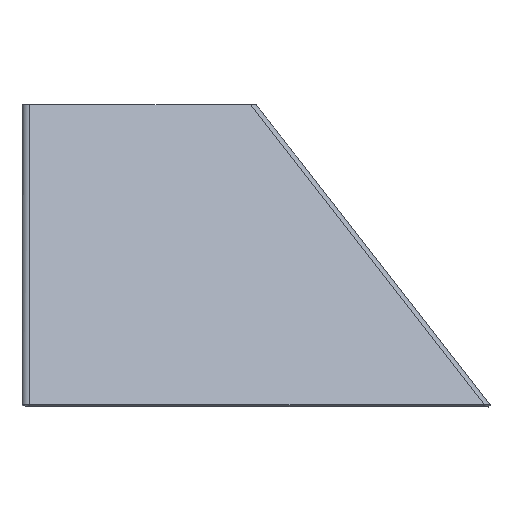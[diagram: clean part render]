
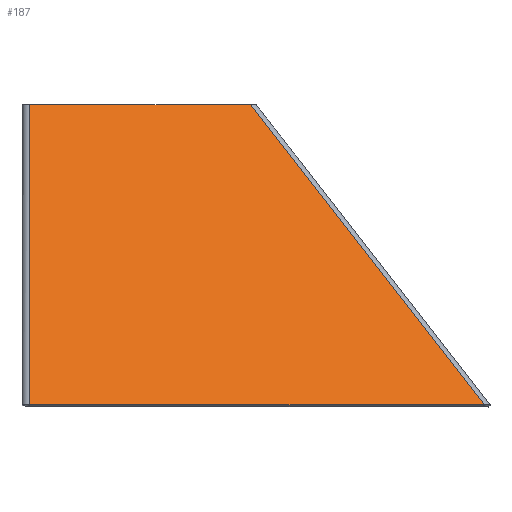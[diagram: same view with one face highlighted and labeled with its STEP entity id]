
A CAD part, top view. The second image highlights one B-rep face of the part: STEP entity #187.
In plain terms, the highlighted planar face has unit normal (0, 0.664, 0.747).
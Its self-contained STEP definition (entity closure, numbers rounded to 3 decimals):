
#16 = FACE_OUTER_BOUND ( 'NONE', #794, .T. ) ;
#30 = CARTESIAN_POINT ( 'NONE',  ( 206.755, 89.832, -79.85 ) ) ;
#39 = CARTESIAN_POINT ( 'NONE',  ( 276.624, 0., 0. ) ) ;
#44 = LINE ( 'NONE', #414, #197 ) ;
#66 = VERTEX_POINT ( 'NONE', #725 ) ;
#150 = PLANE ( 'NONE',  #367 ) ;
#152 = VECTOR ( 'NONE', #295, 1000. ) ;
#153 = EDGE_CURVE ( 'NONE', #485, #66, #44, .T. ) ;
#181 = LINE ( 'NONE', #799, #700 ) ;
#187 = ADVANCED_FACE ( 'NONE', ( #16 ), #150, .F. ) ;
#189 = EDGE_CURVE ( 'NONE', #805, #359, #181, .T. ) ;
#197 = VECTOR ( 'NONE', #346, 1000. ) ;
#205 = EDGE_CURVE ( 'NONE', #485, #805, #503, .T. ) ;
#206 = VECTOR ( 'NONE', #489, 1000. ) ;
#223 = DIRECTION ( 'NONE',  ( 0., -0.664, -0.747 ) ) ;
#227 = CARTESIAN_POINT ( 'NONE',  ( 4.5, 0., 0. ) ) ;
#295 = DIRECTION ( 'NONE',  ( 0., -0.747, 0.664 ) ) ;
#346 = DIRECTION ( 'NONE',  ( 1., 0., 0. ) ) ;
#359 = VERTEX_POINT ( 'NONE', #39 ) ;
#367 = AXIS2_PLACEMENT_3D ( 'NONE', #616, #223, #680 ) ;
#386 = EDGE_CURVE ( 'NONE', #359, #66, #710, .T. ) ;
#408 = ORIENTED_EDGE ( 'NONE', *, *, #205, .T. ) ;
#414 = CARTESIAN_POINT ( 'NONE',  ( 0., 180., -160. ) ) ;
#423 = DIRECTION ( 'NONE',  ( 1., 0., 0. ) ) ;
#485 = VERTEX_POINT ( 'NONE', #838 ) ;
#489 = DIRECTION ( 'NONE',  ( -0.503, 0.646, -0.574 ) ) ;
#503 = LINE ( 'NONE', #227, #152 ) ;
#571 = CARTESIAN_POINT ( 'NONE',  ( 4.5, 0., 0. ) ) ;
#593 = ORIENTED_EDGE ( 'NONE', *, *, #189, .T. ) ;
#616 = CARTESIAN_POINT ( 'NONE',  ( 0., 0., 0. ) ) ;
#680 = DIRECTION ( 'NONE',  ( 0., 0.747, -0.664 ) ) ;
#700 = VECTOR ( 'NONE', #423, 1000. ) ;
#710 = LINE ( 'NONE', #30, #206 ) ;
#724 = ORIENTED_EDGE ( 'NONE', *, *, #153, .F. ) ;
#725 = CARTESIAN_POINT ( 'NONE',  ( 136.624, 180., -160. ) ) ;
#746 = ORIENTED_EDGE ( 'NONE', *, *, #386, .T. ) ;
#794 = EDGE_LOOP ( 'NONE', ( #593, #746, #724, #408 ) ) ;
#799 = CARTESIAN_POINT ( 'NONE',  ( 0., 0., 0. ) ) ;
#805 = VERTEX_POINT ( 'NONE', #571 ) ;
#838 = CARTESIAN_POINT ( 'NONE',  ( 4.5, 180., -160. ) ) ;
